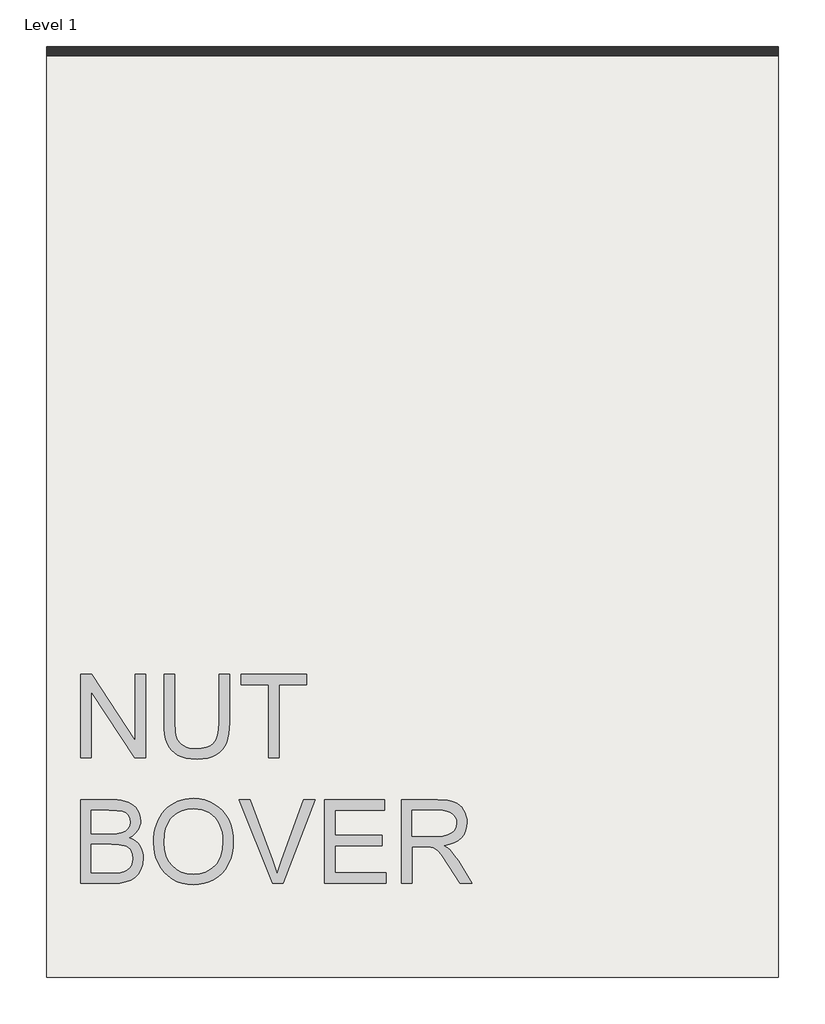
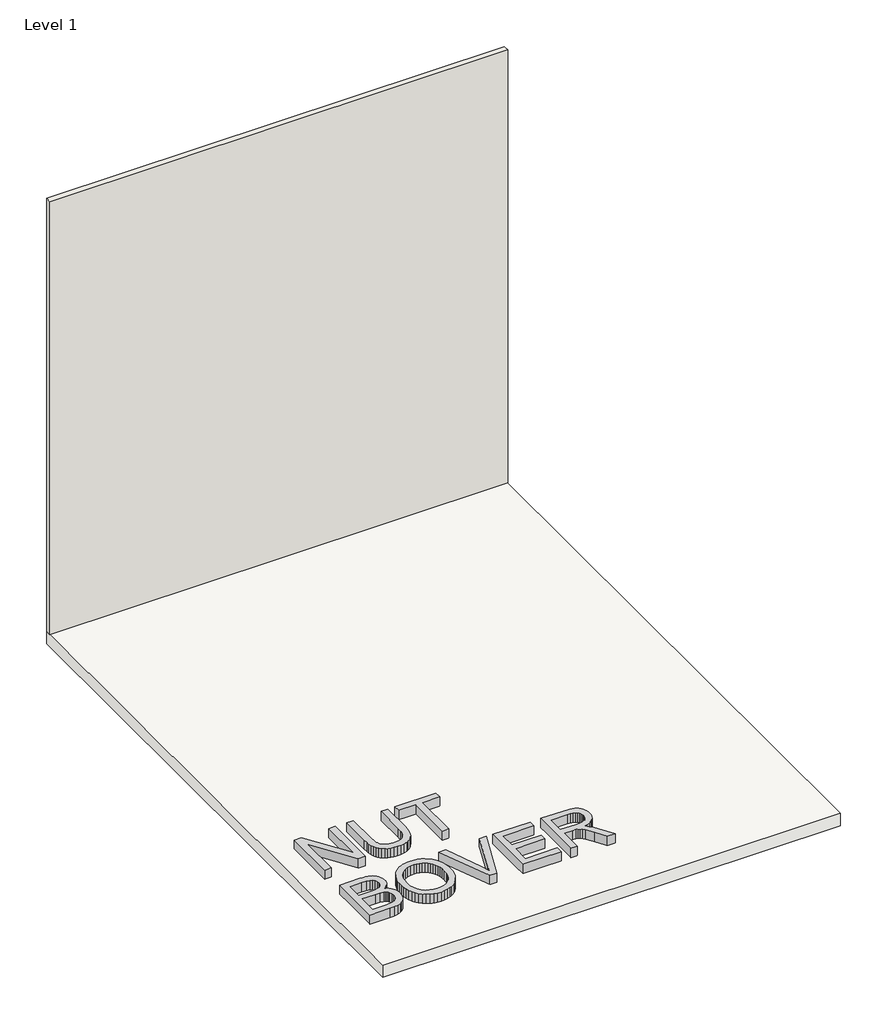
# One storey, incomplete: 2 proxies, 1 slab, 1 wall.
"""IFC4 building model written with IfcOpenShell, lengths in millimetres."""

from ifc_helpers import new_model, si_unit, frame, origin, origin_with_axes, place, context, project, spatial, polyline, outline, extrude, element, save

model = new_model("IFC4")

# Units and contexts
model_context = context("Model", 3, world=origin())
ifc_project = project(units=[si_unit("LENGTHUNIT", "METRE", prefix="MILLI")], contexts=[model_context])

# Site, building, storey
site = spatial("IfcSite", under=ifc_project)
building = spatial("IfcBuilding", under=site)
storey = spatial("IfcBuildingStorey", under=building, Name="Level 1", Elevation=0.0)

# Proxies
placement = place(None, origin())
element("IfcBuildingElementProxy", 1, Name="800mm Arial", ObjectType="800mm Arial", at=placement, inside=storey, context=model_context, shape_type="SweptSolid", body=[
    extrude(outline(polyline([(-8079.6098913, -3385.7089576), (-8079.6098913, -2586.3202593), (-7774.5697215, -2586.3202593), (-7730.322552, -2587.7900826), (-7690.6739167, -2592.1995524), (-7655.6238156, -2599.5486688), (-7625.1722487, -2609.8374317), (-7598.5446619, -2623.1756205), (-7574.966501, -2639.6730145), (-7554.437766, -2659.3296138), (-7536.9584568, -2682.1454182), (-7522.9981851, -2706.8335702), (-7513.0265625, -2732.1072119), (-7507.0435889, -2757.9663433), (-7505.0492644, -2784.4109646), (-7506.7264486, -2808.8368659), (-7511.7580013, -2832.5431027), (-7520.1439225, -2855.529675), (-7531.8842122, -2877.7965828), (-7547.0154634, -2898.648557), (-7565.5742693, -2917.3903284), (-7587.5606299, -2934.0218972), (-7612.9745452, -2948.5432632), (-7582.8157232, -2961.3996428), (-7556.3528054, -2978.1104966), (-7533.5857918, -2998.6758247), (-7514.5146823, -3023.0956272), (-7499.4444196, -3050.6258441), (-7488.6799463, -3080.5224154), (-7482.2212623, -3112.7853412), (-7480.0683676, -3147.4146215), (-7485.9476607, -3203.1581267), (-7503.58554, -3254.8519942), (-7529.9081842, -3298.8125177), (-7561.841772, -3331.3559907), (-7600.9476095, -3354.9219539), (-7648.7870028, -3371.9499481), (-7706.9212578, -3382.2692053), (-7776.9116806, -3385.7089576), (-8079.6098913, -3385.7089576)]), holes=[polyline([(-7979.686304, -2911.071918), (-7797.2086593, -2911.071918), (-7733.3902744, -2908.9251222), (-7690.6495213, -2902.4847347), (-7653.3489439, -2887.6767226), (-7626.5383915, -2865.5012976), (-7610.3642367, -2836.2999954), (-7604.9728517, -2800.4143516), (-7609.9983056, -2765.5777103), (-7625.0746671, -2735.229824), (-7649.518865, -2711.5418837), (-7682.6478278, -2696.6850808), (-7733.4878561, -2688.8541552), (-7811.0652505, -2686.2438466), (-7979.686304, -2686.2438466), (-7979.686304, -2911.071918)]), polyline([(-7979.686304, -3285.7853704), (-7774.7648848, -3285.7853704), (-7700.6028473, -3281.8821052), (-7666.180928, -3273.2217357), (-7637.8578604, -3260.1214021), (-7614.8285961, -3241.3613341), (-7596.2880868, -3215.7217613), (-7584.0659879, -3184.3492678), (-7579.9919549, -3148.3904378), (-7584.7734547, -3106.625501), (-7599.117954, -3070.7154618), (-7610.1629745, -3055.4500358), (-7624.172037, -3042.6363483), (-7641.1451415, -3032.2743991), (-7661.0822879, -3024.3641884), (-7713.3616452, -3014.3376761), (-7784.5230476, -3010.9955053), (-7979.686304, -3010.9955053), (-7979.686304, -3285.7853704)])]), origin_with_axes(), (0.0, 0.0, 1.0), 150.0),
    extrude(outline(polyline([(-7380.1447803, -2996.5534243), (-7378.4797938, -2948.326754), (-7373.4848342, -2902.7896773), (-7365.1599015, -2859.9421943), (-7353.5049958, -2819.7843048), (-7338.520117, -2782.316009), (-7320.2052652, -2747.5373068), (-7298.5604402, -2715.4481983), (-7273.5856423, -2686.0486833), (-7245.9791898, -2659.7473851), (-7216.4394013, -2636.9529266), (-7184.9662767, -2617.6653079), (-7151.5598162, -2601.884529), (-7116.2200197, -2589.6105898), (-7078.9468871, -2580.8434904), (-7039.7404185, -2575.5832308), (-6998.600614, -2573.8298109), (-6944.8209391, -2577.1231908), (-6893.7491544, -2587.0033307), (-6845.38526, -2603.4702305), (-6799.7292557, -2626.5238901), (-6758.0619004, -2655.4690406), (-6721.6639531, -2689.6104128), (-6690.5354137, -2728.9480066), (-6664.6762822, -2773.4818222), (-6644.3549081, -2822.1994501), (-6629.8396409, -2874.0884809), (-6621.1304806, -2929.1489146), (-6618.2274272, -2987.3807513), (-6621.2829519, -3046.3810432), (-6630.4495261, -3102.1855369), (-6645.7271498, -3154.7942322), (-6667.1158229, -3204.2071292), (-6694.1093408, -3249.1190736), (-6726.2014988, -3288.2249111), (-6763.3922969, -3321.5246417), (-6805.681735, -3349.0182654), (-6851.4048267, -3370.5350145), (-6898.8965853, -3385.9041209), (-6948.157011, -3395.1255848), (-6999.1861037, -3398.1994061), (-7053.9050018, -3394.8023456), (-7105.6476601, -3384.6111643), (-7154.4140788, -3367.6258622), (-7200.2042579, -3343.8464391), (-7241.8228223, -3314.1938219), (-7278.0743972, -3279.588937), (-7308.9589825, -3240.0317844), (-7334.4765783, -3195.5223643), (-7354.4564167, -3147.84764), (-7368.7277298, -3098.7945753), (-7377.2905177, -3048.3631701), (-7380.1447803, -2996.5534243)]), holes=[polyline([(-7280.221193, -2997.5292406), (-7275.2262334, -3063.7749685), (-7260.2413546, -3122.5800972), (-7235.2665566, -3173.9446267), (-7200.3018395, -3217.8685571), (-7157.7989415, -3253.0467341), (-7110.2096012, -3278.1740034), (-7057.5338186, -3293.2503649), (-6999.7715935, -3298.2758188), (-6941.0213545, -3293.2015741), (-6887.7234889, -3277.9788401), (-6839.8779968, -3252.6076168), (-6797.4848782, -3217.0879041), (-6778.8910039, -3195.7266758), (-6762.7763128, -3172.2369482), (-6737.9844804, -3118.8719953), (-6723.109381, -3056.9930453), (-6718.1510145, -2986.6000982), (-6720.2734149, -2940.8709077), (-6726.6406161, -2898.1423523), (-6737.2526182, -2858.4144319), (-6752.1094211, -2821.6871466), (-6771.0463558, -2788.4423056), (-6793.8987534, -2759.1617183), (-6820.6666138, -2733.8453846), (-6851.349937, -2712.4933046), (-6884.9973022, -2695.5445955), (-6920.6572884, -2683.4383748), (-6958.3298958, -2676.1746423), (-6998.0151242, -2673.7533982), (-7053.770827, -2678.4190198), (-7105.5012877, -2692.4158846), (-7153.2065062, -2715.7439926), (-7196.8864825, -2748.4033438), (-7216.4180553, -2768.6256115), (-7233.3454183, -2791.9674419), (-7247.6685717, -2818.428835), (-7259.3875154, -2848.0097908), (-7268.5022493, -2880.7103092), (-7275.0127736, -2916.5303903), (-7280.221193, -2997.5292406)])]), origin_with_axes(), (0.0, 0.0, 1.0), 150.0),
    extrude(outline(polyline([(-6244.6849544, -3385.7089576), (-6562.8010624, -2586.3202593), (-6455.8515978, -2586.3202593), (-6242.9284851, -3162.247029), (-6199.7974054, -3292.0305946), (-6157.2518155, -3162.247029), (-5943.743213, -2586.3202593), (-5836.7937484, -2586.3202593), (-6141.4435917, -3385.7089576), (-6244.6849544, -3385.7089576)])), origin_with_axes(), (0.0, 0.0, 1.0), 150.0),
    extrude(outline(polyline([(-5743.8960384, -3385.7089576), (-5743.8960384, -2586.3202593), (-5169.3354114, -2586.3202593), (-5169.3354114, -2686.2438466), (-5643.9724511, -2686.2438466), (-5643.9724511, -2923.5623664), (-5194.3163083, -2923.5623664), (-5194.3163083, -3023.4859537), (-5643.9724511, -3023.4859537), (-5643.9724511, -3285.7853704), (-5156.844963, -3285.7853704), (-5156.844963, -3385.7089576), (-5743.8960384, -3385.7089576)])), origin_with_axes(), (0.0, 0.0, 1.0), 150.0),
    extrude(outline(polyline([(-5006.9595821, -3385.7089576), (-5006.9595821, -2586.3202593), (-4662.4964345, -2586.3202593), (-4569.9158647, -2591.7116443), (-4533.0848989, -2598.4508755), (-4502.5601458, -2607.8857991), (-4476.5668396, -2620.7421787), (-4453.3302144, -2637.7457774), (-4432.8502702, -2658.8965953), (-4415.127007, -2684.1946324), (-4400.8251996, -2712.2798448), (-4390.6096229, -2741.7921885), (-4384.4802768, -2772.7316635), (-4382.4371615, -2805.0982698), (-4385.8220242, -2846.1557398), (-4395.9766124, -2883.8466437), (-4412.9009261, -2918.1709815), (-4436.5949652, -2949.128753), (-4467.3636723, -2975.7319444), (-4505.5119901, -2996.9925417), (-4551.0399185, -3012.9105448), (-4603.9474576, -3023.4859537), (-4571.013658, -3045.0027027), (-4547.1549499, -3066.2267069), (-4506.2194569, -3114.7735669), (-4466.1621985, -3169.077743), (-4332.8656944, -3385.7089576), (-4448.9878319, -3385.7089576), (-4553.0098476, -3220.0153529), (-4628.1477014, -3110.3336028), (-4656.0804424, -3078.3512242), (-4680.9393622, -3058.5177582), (-4704.48093, -3046.8811491), (-4728.4616152, -3039.4893407), (-4786.4251023, -3035.9764021), (-4907.0359948, -3035.9764021), (-4907.0359948, -3385.7089576), (-5006.9595821, -3385.7089576)]), holes=[polyline([(-4907.0359948, -2936.0528148), (-4683.3789029, -2936.0528148), (-4619.1457961, -2932.5154808), (-4569.3059795, -2921.9034787), (-4531.7858435, -2903.5093418), (-4516.8680521, -2891.1286727), (-4504.5117784, -2876.6256032), (-4487.8985062, -2844.1065256), (-4482.3607488, -2808.8063716), (-4485.0015516, -2783.2521828), (-4492.9239601, -2760.0643483), (-4506.1279741, -2739.2428684), (-4524.6135938, -2720.787743), (-4548.8077388, -2705.6747883), (-4579.1373286, -2694.8798207), (-4615.6023633, -2688.4028401), (-4658.2028428, -2686.2438466), (-4907.0359948, -2686.2438466), (-4907.0359948, -2936.0528148)])]), origin_with_axes(), (0.0, 0.0, 1.0), 150.0),
])
element("IfcBuildingElementProxy", 2, Name="800mm Arial", ObjectType="800mm Arial", at=placement, inside=storey, context=model_context, shape_type="SweptSolid", body=[
    extrude(outline(polyline([(-8079.6098913, -2185.7089576), (-8079.6098913, -1386.3202593), (-7972.6604268, -1386.3202593), (-7555.0110581, -2019.6250264), (-7555.0110581, -1386.3202593), (-7455.0874708, -1386.3202593), (-7455.0874708, -2185.7089576), (-7562.0369353, -2185.7089576), (-7979.686304, -1552.2090273), (-7979.686304, -2185.7089576), (-8079.6098913, -2185.7089576)])), origin_with_axes(), (0.0, 0.0, 1.0), 150.0),
    extrude(outline(polyline([(-6755.6223597, -1386.3202593), (-6655.6987724, -1386.3202593), (-6655.6987724, -1847.4910343), (-6657.3942532, -1904.5945833), (-6662.4806956, -1955.4895013), (-6670.9580995, -2000.1757882), (-6682.8264651, -2038.6534439), (-6699.1103993, -2072.3800942), (-6720.8345092, -2102.8133645), (-6747.998795, -2129.9532548), (-6780.6032565, -2153.7997652), (-6818.6844869, -2173.2246081), (-6862.2790793, -2187.0994959), (-6911.3870337, -2195.4244285), (-6966.0083501, -2198.1994061), (-7019.2818203, -2195.7842608), (-7067.4688481, -2188.5388249), (-7110.5694335, -2176.4630984), (-7148.5835765, -2159.5570813), (-7181.5173761, -2138.0708265), (-7209.3769309, -2112.254387), (-7232.1622411, -2082.1077627), (-7249.8733066, -2047.6309537), (-7263.1505069, -2007.6407827), (-7272.6342214, -1960.9540725), (-7278.3244501, -1907.570823), (-7280.221193, -1847.4910343), (-7280.221193, -1386.3202593), (-7180.2976057, -1386.3202593), (-7180.2976057, -1843.9780956), (-7175.3697335, -1933.777589), (-7169.2098932, -1968.4495613), (-7160.5861168, -1996.3030173), (-7148.9617053, -2019.3505781), (-7133.7999599, -2039.6048648), (-7115.1008804, -2057.0658774), (-7092.8644668, -2071.7336159), (-7067.5176389, -2083.3458297), (-7039.4873162, -2091.6402681), (-7008.7734987, -2096.6169311), (-6975.3761865, -2098.2758188), (-6920.303555, -2094.9946365), (-6873.7449207, -2085.1510898), (-6835.7002834, -2068.7451785), (-6806.1696431, -2045.7769028), (-6784.0552066, -2013.4773838), (-6768.2591806, -1969.077743), (-6758.7815649, -1912.5779803), (-6755.6223597, -1843.9780956), (-6755.6223597, -1386.3202593)])), origin_with_axes(), (0.0, 0.0, 1.0), 150.0),
    extrude(outline(polyline([(-6280.9853201, -2185.7089576), (-6280.9853201, -1486.2438466), (-6543.2847367, -1486.2438466), (-6543.2847367, -1386.3202593), (-5918.7623161, -1386.3202593), (-5918.7623161, -1486.2438466), (-6181.0617328, -1486.2438466), (-6181.0617328, -2185.7089576), (-6280.9853201, -2185.7089576)])), origin_with_axes(), (0.0, 0.0, 1.0), 150.0),
])

# Slab
element("IfcSlab", 3, ObjectType="Generic Floor - 400mm", at=placement, inside=storey, context=model_context, shape_type="SweptSolid", body=[
    extrude(outline(polyline([(-1405.090184, 4615.2076786), (-1405.090184, -4284.7923214), (-8405.090184, -4284.7923214), (-8405.090184, 4615.2076786), (-1405.090184, 4615.2076786)])), frame((0.0, 0.0, -200.0), z_axis=(0.0, 0.0, 1.0), x_axis=(1.0, 0.0, 0.0)), (0.0, 0.0, 1.0), 200.0),
])

# Wall
element("IfcWall", 4, ObjectType="Generic - 90mm Brick", at=placement, inside=storey, context=model_context, shape_type="SweptSolid", body=[
    extrude(outline(polyline([(-1405.090184, 4525.2076786), (-8405.090184, 4525.2076786), (-8405.090184, 4615.2076786), (-1405.090184, 4615.2076786), (-1405.090184, 4525.2076786)])), origin_with_axes(), (0.0, 0.0, 1.0), 7000.0),
])

save(model, "model.ifc")
